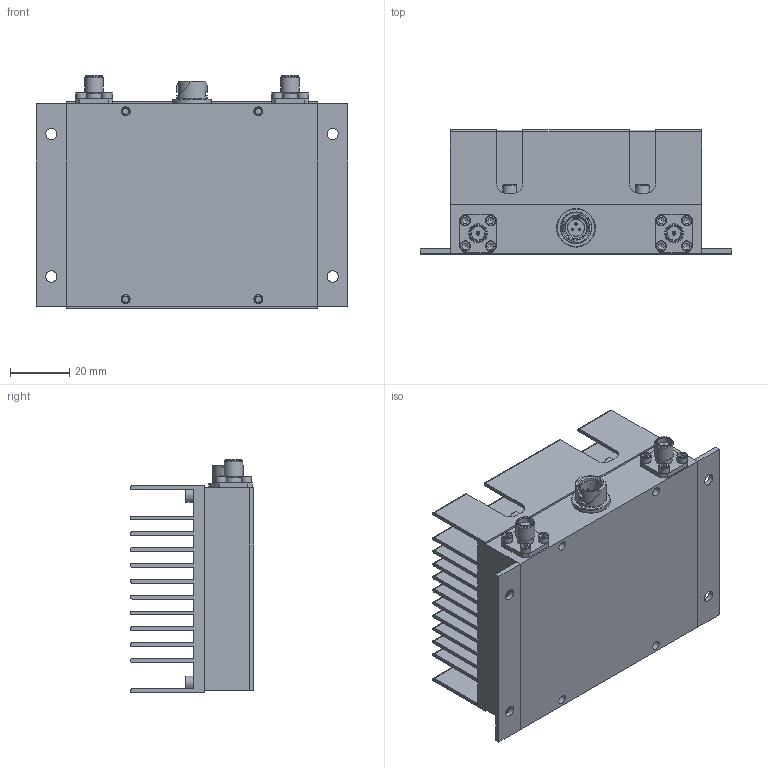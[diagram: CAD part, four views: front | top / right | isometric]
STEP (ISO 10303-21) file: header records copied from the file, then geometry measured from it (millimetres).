
FILE_DESCRIPTION((''),'2;1');
FILE_NAME('\\SERPENTOR\Engineering\ENG\Models\TTRMxxxx\TTRM1004\Inventor\OL_118-HS.stp','2015-06-17T16:32:27',('dcampbell'),(''),'Autodesk Inventor 2013','Autodesk Inventor 2013','');
FILE_SCHEMA(('AUTOMOTIVE_DESIGN { 1 0 10303 214 1 1 1 1 }'));
Length unit declared in the file: inch
Products named in the file (13): OL_118-HS; OL_118; ol_118; 410-008; 410-008_1; 400-023; gD[XbV[; RVF; Zpibg; Hexagon Socket Head Cap Screw - Inch No. 2 - 56 UNC - 3/16; T521341801; Hexagon Socket Head Cap Screw - Inch No. 4 - 40 UNC - 3/8; HS_CVR
Assembly tree (23 placements, depth 4):
  OL_118-HS
    OL_118
      ol_118
      410-008
      410-008_1
      400-023
        gD[XbV[
        RVF
        Zpibg
      Hexagon Socket Head Cap Screw - Inch No. 2 - 56 UNC - 3/16  x8
    T521341801
    Hexagon Socket Head Cap Screw - Inch No. 4 - 40 UNC - 3/8  x4
    HS_CVR  x2
Bounding box: 104.9 x 41.66 x 78.49 mm (x, y, z)
Volume: 148068.1 mm3; surface area: 79780.8 mm2
Topology: 21 solids, 21 shells, 587 faces, 1498 edges, 979 vertices
Faces by surface type: plane 298, cylinder 162, cone 55, bspline 38, torus 31, sphere 3
Full cylindrical faces by diameter (mm): 0.7 x3, 0.737 x2, 1.016 x3, 1.15 x3, 1.245 x2, 1.295 x2, 1.55 x3, 2.184 x8, 2.591 x8, 2.845 x4, 3.048 x4, 3.277 x4, 3.556 x8, 3.81 x4, 4.597 x2, 4.648 x4, 5.486 x4, 5.6 x1, 6.35 x2, 6.6 x1, 7.3 x1, 7.6 x1, 8.18 x1, 9 x1, 10.3 x1, 11 x1, 11.7 x1, 12.9 x1, 13 x1
Entity records: 22243 total; most frequent: CARTESIAN_POINT 11757, ORIENTED_EDGE 2086, DIRECTION 1966, EDGE_CURVE 1043, VERTEX_POINT 739, AXIS2_PLACEMENT_3D 723, EDGE_LOOP 582, VECTOR 520
